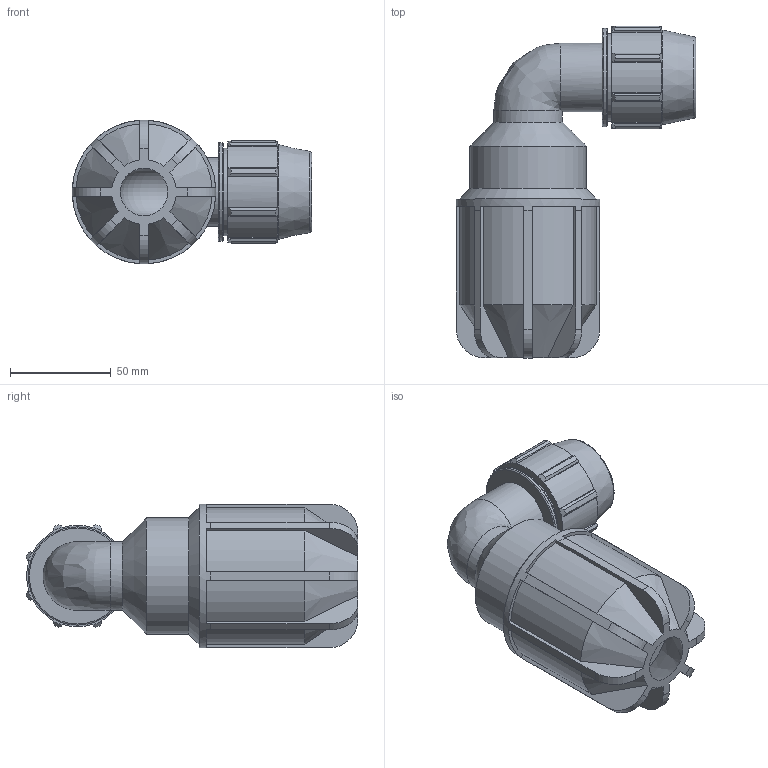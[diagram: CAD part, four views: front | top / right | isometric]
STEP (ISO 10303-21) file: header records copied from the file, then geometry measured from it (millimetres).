
FILE_DESCRIPTION(/* description */ ('PLASSON PLASS4 90° ELBOW 3/4'''' - 0.925'),/* implementation_level */ '2;1');
FILE_NAME(/* name */ 'C:\Dropbox\KIMPROJECTS-Inventor 2019\99-16-3568-Processing Inch\ASTM Compression 2021\070570M0\070570M07027.ipt.stp',/* time_stamp */ '2021-08-26T12:31:41+03:00',/* author */ ('KIM'),/* organization */ (''),/* preprocessor_version */ 'ST-DEVELOPER v17.2',/* originating_system */ 'Autodesk Inventor 2019',/* authorisation */ '');
FILE_SCHEMA (('AUTOMOTIVE_DESIGN { 1 0 10303 214 3 1 1 }'));
Length unit declared in the file: inch
Products named in the file (1): 070570M07027
Bounding box: 118.62 x 164.39 x 71.12 mm (x, y, z)
Volume: 235342.4 mm3; surface area: 73018.5 mm2
Topology: 1 solids, 1 shells, 160 faces, 466 edges, 312 vertices
Faces by surface type: plane 88, cylinder 42, cone 24, torus 5, bspline 1
Full cylindrical faces by diameter (mm): 23.94 x2, 26.6 x1, 33.998 x2, 43.282 x1, 47.552 x1, 48.692 x1, 57.61 x1, 71.12 x1
Entity records: 5543 total; most frequent: CARTESIAN_POINT 1059, ORIENTED_EDGE 928, DIRECTION 910, EDGE_CURVE 464, AXIS2_PLACEMENT_3D 334, VERTEX_POINT 312, LINE 242, VECTOR 242
